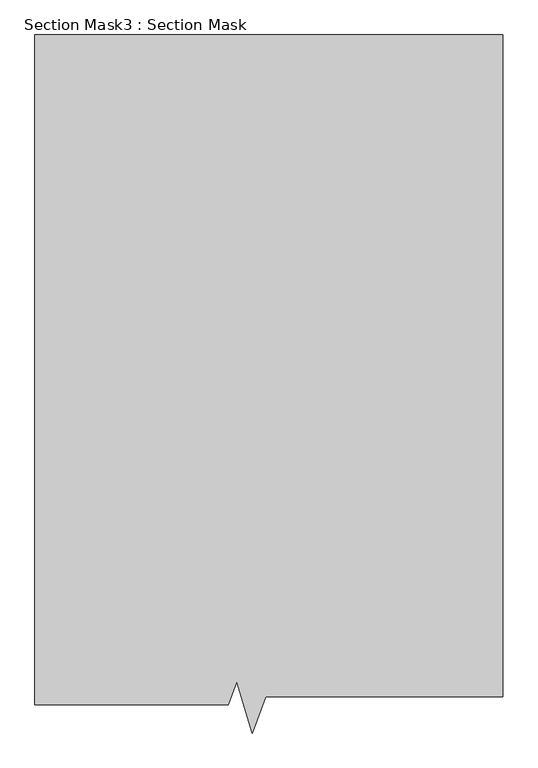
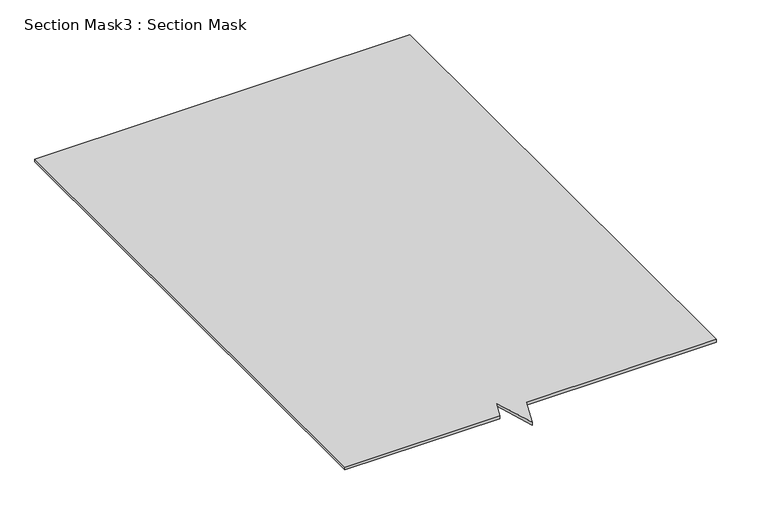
"""IFC4 building model written with IfcOpenShell, lengths in millimetres: proxy geometry, Section Mask3 : Section Mask."""

from ifc_helpers import new_model, si_unit, frame, origin, place, context, project, spatial, polyline, outline, extrude, source, transform, mapped, element, save


def section_mask3_section_mask_8df45557(model_context):
    return source(origin(), model_context, "Body", "SweptSolid", [
        extrude(outline(polyline([(8124.664325, 631.273934), (7595.23088, 631.273934), (7595.23088, 2465.4614947), (8876.4836184, 2465.4614947), (8876.4836184, 652.1224056), (8227.2982256, 652.1224056), (8190.6813689, 552.9595639), (8147.6812645, 693.6065681), (8124.664325, 631.273934)])), frame((0.0, 0.0, 45.0273345), z_axis=(0.0, 0.0, 1.0), x_axis=(1.0, 0.0, 0.0)), (0.0, 0.0, 1.0), 10.4266716),
    ])


if __name__ == "__main__":
    model = new_model("IFC4")
    model_context = context("Model", 3, world=origin())
    ifc_project = project(units=[si_unit("LENGTHUNIT", "METRE", prefix="MILLI")], contexts=[model_context])
    site = spatial("IfcSite", under=ifc_project)
    building = spatial("IfcBuilding", under=site)
    placement = place(None, origin())
    section_mask3_section_mask_shape = section_mask3_section_mask_8df45557(model_context)
    element("IfcBuildingElementProxy", 1, Name="Section Mask3 : Section Mask", ObjectType="Section Mask3 : Section Mask", at=placement, inside=building, context=model_context, shape_type="MappedRepresentation", body=[
        mapped(section_mask3_section_mask_shape, transform((0.0, 0.0, 0.0), x_axis=(1.0, 0.0, 0.0), y_axis=(0.0, 1.0, 0.0), z_axis=(0.0, 0.0, 1.0))),
    ])
    save(model, "model.ifc")
